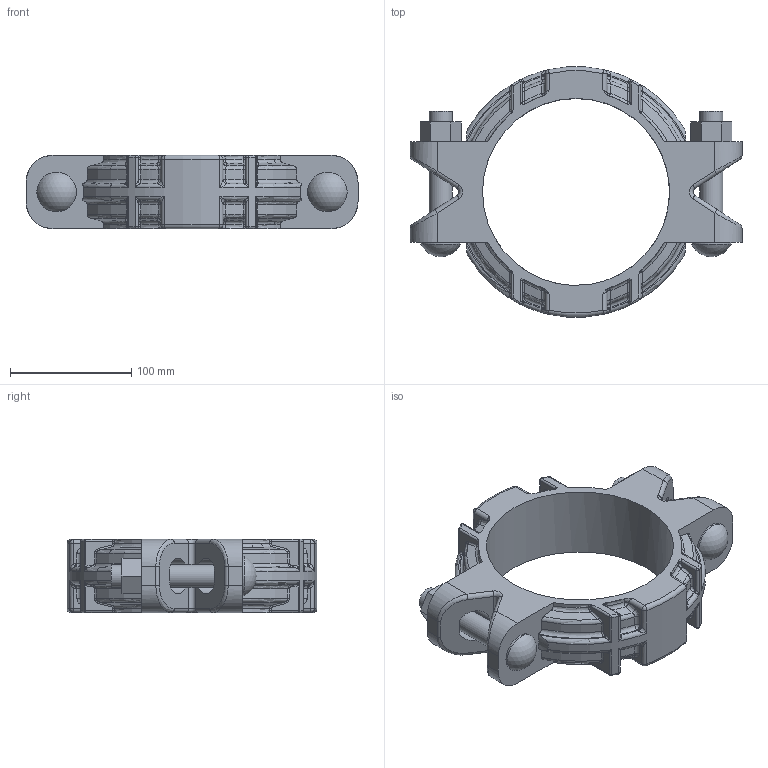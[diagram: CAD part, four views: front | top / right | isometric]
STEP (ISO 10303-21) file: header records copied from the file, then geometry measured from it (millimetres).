
FILE_DESCRIPTION(/* description */ ('VIC COUPLING STYLE XL 79','CAx-IF Rec.Pracs.---Representation and Presentation of Product Manufacturing Information (PMI)---4.0---2014-10-13'),/* implementation_level */ '2;1');
FILE_NAME(/* name */ 'C:\Users\kkamble\AppData\Roaming\Autodesk\ApplicationPlugins\Back Up\Victaulic_IPS-XL_Coupling_Style XL79 (XLG)\Victaulic_IPS-XL_Coupling_Style XL79 (XLG)_5 (125).stp',/* time_stamp */ '2020-08-05T13:49:48+05:00',/* author */ ('jheald'),/* organization */ ('Victaulic'),/* preprocessor_version */ 'ST-DEVELOPER v17.2',/* originating_system */ 'Autodesk Inventor 2019',/* authorisation */ '');
FILE_SCHEMA (('AP242_MANAGED_MODEL_BASED_3D_ENGINEERING_MIM_LF { 1 0 10303 442 1 1 4 }'));
Length unit declared in the file: inch
Products named in the file (1): XL79-05.0
Bounding box: 273.48 x 205.93 x 60.45 mm (x, y, z)
Volume: 972764.9 mm3; surface area: 141005.1 mm2
Topology: 1 solids, 1 shells, 575 faces, 1383 edges, 792 vertices
Faces by surface type: cylinder 195, bspline 160, plane 82, torus 80, sphere 42, cone 16
Full cylindrical faces by diameter (mm): 19.05 x4, 32.537 x2, 154 x1
Entity records: 22754 total; most frequent: CARTESIAN_POINT 9697, ORIENTED_EDGE 2718, DIRECTION 2425, EDGE_CURVE 1359, AXIS2_PLACEMENT_3D 1009, VERTEX_POINT 792, EDGE_LOOP 591, STYLED_ITEM 577
